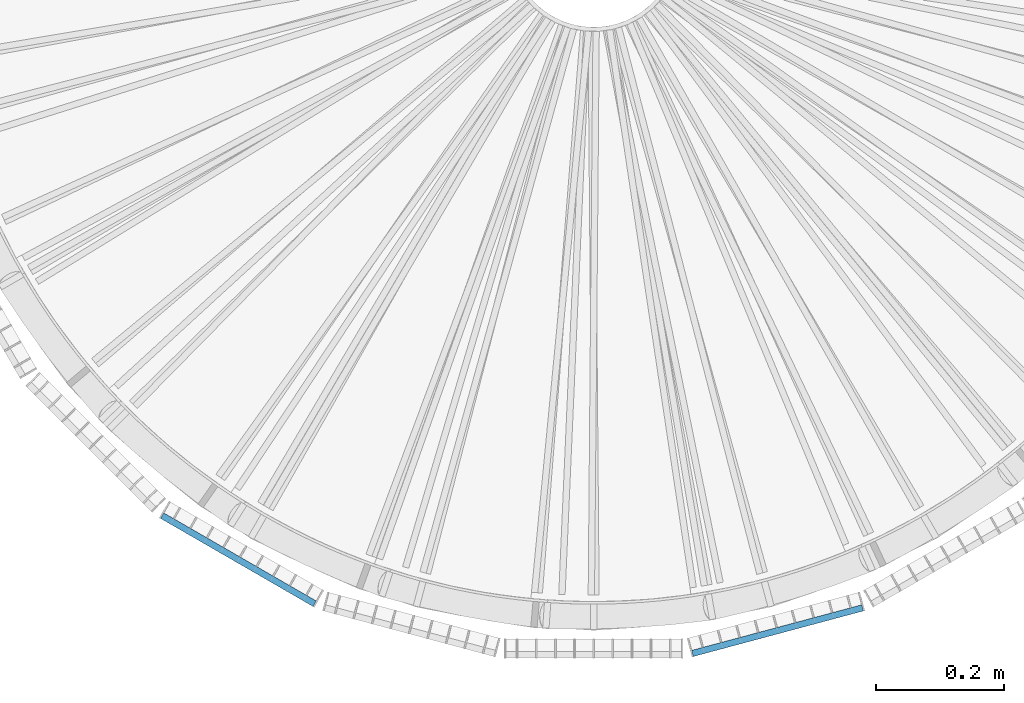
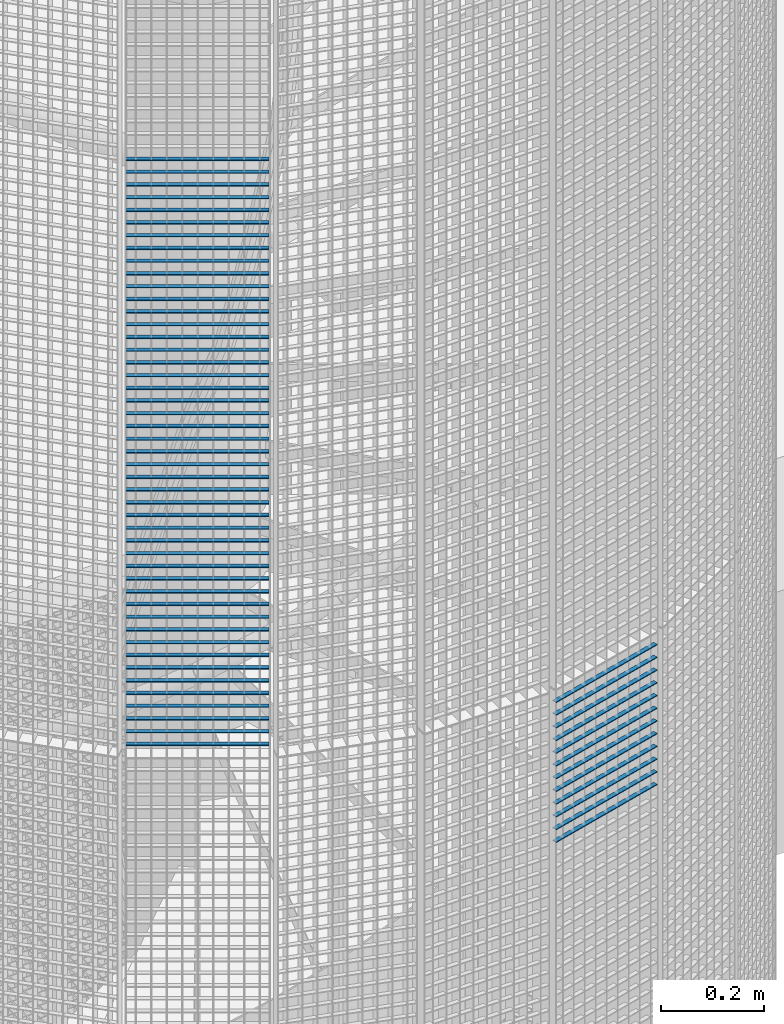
# One storey, part 154 of 1183: 59 beams, 2 elements without a shape of their own.
"""IFC2X3 building model written with IfcOpenShell, lengths in millimetres."""

from ifc_helpers import new_model, si_unit, frame, origin_with_axes, origin_2d_with_axis, place, context, subcontext, project, spatial, rectangle, extrude, material, type_object, element, aggregate, save


model = new_model("IFC2X3")

# Units and contexts
model_context = context("Model", 3, precision=1e-05, world=origin_with_axes())
body_context = subcontext(model_context, "Body", "Model", "MODEL_VIEW")
ifc_project = project(units=[si_unit("LENGTHUNIT", "METRE", prefix="MILLI"), si_unit("AREAUNIT", "SQUARE_METRE"), si_unit("VOLUMEUNIT", "CUBIC_METRE"), si_unit("MASSUNIT", "GRAM", prefix="KILO"), si_unit("TIMEUNIT", "SECOND"), si_unit("PLANEANGLEUNIT", "RADIAN"), si_unit("SOLIDANGLEUNIT", "STERADIAN"), si_unit("THERMODYNAMICTEMPERATUREUNIT", "DEGREE_CELSIUS"), si_unit("LUMINOUSINTENSITYUNIT", "LUMEN")], contexts=[model_context])

# Site, building, storey
site_placement = place(None, origin_with_axes())
site = spatial("IfcSite", under=ifc_project, at=site_placement, Name="Undefined", CompositionType="ELEMENT")
building_placement = place(site_placement, origin_with_axes())
building = spatial("IfcBuilding", under=site, at=building_placement, Name="Undefined", CompositionType="ELEMENT")
storey_placement = place(building_placement, origin_with_axes())
storey = spatial("IfcBuildingStorey", under=building, at=storey_placement, Name="Undefined", CompositionType="ELEMENT", Elevation=0.0)

# Assembly, beams
assembly_1_placement = place(storey_placement, origin_with_axes())
assembly_1 = element("IfcElementAssembly", 1, at=assembly_1_placement, inside=storey, Name="BORDURE", AssemblyPlace="NOTDEFINED", PredefinedType="NOTDEFINED")
ifc_material = material(Name="STEEL/S235JR")
beam_type = type_object("IfcBeamType", Name="PL2*10", PredefinedType="NOTDEFINED")
beam_1_placement = place(assembly_1_placement, frame((-676.248044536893, -895.303964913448, 10410.0), z_axis=(-0.49999999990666, -0.866025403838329, 0.0), x_axis=(0.866025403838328, -0.49999999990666, 0.0)))
beam_1 = element("IfcBeam", 2, at=beam_1_placement, type_object=beam_type, material=ifc_material, Name="ENTRETOISE", context=body_context, shape_type="SweptSolid", body=[
    extrude(rectangle(XDim=2.0, YDim=10.0, at=origin_2d_with_axis()), frame((275.999999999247, 9.09494701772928e-13, 1.53210777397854e-14), z_axis=(-1.0, 0.0, 0.0), x_axis=(0.0, -1.0, 0.0)), (0.0, 0.0, 1.0), 276.0),
])
beam_2_placement = place(assembly_1_placement, frame((-676.248044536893, -895.303964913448, 10380.0), z_axis=(-0.49999999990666, -0.866025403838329, 0.0), x_axis=(0.866025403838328, -0.49999999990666, 0.0)))
beam_2 = element("IfcBeam", 3, at=beam_2_placement, type_object=beam_type, material=ifc_material, Name="ENTRETOISE", context=body_context, shape_type="SweptSolid", body=[
    extrude(rectangle(XDim=2.0, YDim=10.0, at=origin_2d_with_axis()), frame((275.999999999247, 9.09494701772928e-13, 1.53210777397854e-14), z_axis=(-1.0, 0.0, 0.0), x_axis=(0.0, -1.0, 0.0)), (0.0, 0.0, 1.0), 276.0),
])
beam_3_placement = place(assembly_1_placement, frame((-676.248044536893, -895.303964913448, 10350.0), z_axis=(-0.49999999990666, -0.866025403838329, 0.0), x_axis=(0.866025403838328, -0.49999999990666, 0.0)))
beam_3 = element("IfcBeam", 4, at=beam_3_placement, type_object=beam_type, material=ifc_material, Name="ENTRETOISE", context=body_context, shape_type="SweptSolid", body=[
    extrude(rectangle(XDim=2.0, YDim=10.0, at=origin_2d_with_axis()), frame((275.999999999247, 9.09494701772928e-13, 1.53210777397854e-14), z_axis=(-1.0, 0.0, 0.0), x_axis=(0.0, -1.0, 0.0)), (0.0, 0.0, 1.0), 276.0),
])
beam_4_placement = place(assembly_1_placement, frame((-676.248044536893, -895.303964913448, 10320.0), z_axis=(-0.49999999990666, -0.866025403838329, 0.0), x_axis=(0.866025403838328, -0.49999999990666, 0.0)))
beam_4 = element("IfcBeam", 5, at=beam_4_placement, type_object=beam_type, material=ifc_material, Name="ENTRETOISE", context=body_context, shape_type="SweptSolid", body=[
    extrude(rectangle(XDim=2.0, YDim=10.0, at=origin_2d_with_axis()), frame((275.999999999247, 9.09494701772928e-13, 1.53210777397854e-14), z_axis=(-1.0, 0.0, 0.0), x_axis=(0.0, -1.0, 0.0)), (0.0, 0.0, 1.0), 276.0),
])
beam_5_placement = place(assembly_1_placement, frame((-676.248044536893, -895.303964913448, 10290.0), z_axis=(-0.49999999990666, -0.866025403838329, 0.0), x_axis=(0.866025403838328, -0.49999999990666, 0.0)))
beam_5 = element("IfcBeam", 6, at=beam_5_placement, type_object=beam_type, material=ifc_material, Name="ENTRETOISE", context=body_context, shape_type="SweptSolid", body=[
    extrude(rectangle(XDim=2.0, YDim=10.0, at=origin_2d_with_axis()), frame((275.999999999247, 9.09494701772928e-13, 1.53210777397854e-14), z_axis=(-1.0, 0.0, 0.0), x_axis=(0.0, -1.0, 0.0)), (0.0, 0.0, 1.0), 276.0),
])
beam_6_placement = place(assembly_1_placement, frame((-676.248044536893, -895.303964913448, 10260.0), z_axis=(-0.49999999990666, -0.866025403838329, 0.0), x_axis=(0.866025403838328, -0.49999999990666, 0.0)))
beam_6 = element("IfcBeam", 7, at=beam_6_placement, type_object=beam_type, material=ifc_material, Name="ENTRETOISE", context=body_context, shape_type="SweptSolid", body=[
    extrude(rectangle(XDim=2.0, YDim=10.0, at=origin_2d_with_axis()), frame((275.999999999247, 9.09494701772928e-13, 1.53210777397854e-14), z_axis=(-1.0, 0.0, 0.0), x_axis=(0.0, -1.0, 0.0)), (0.0, 0.0, 1.0), 276.0),
])
beam_7_placement = place(assembly_1_placement, frame((-676.248044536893, -895.303964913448, 10230.0), z_axis=(-0.49999999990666, -0.866025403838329, 0.0), x_axis=(0.866025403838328, -0.49999999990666, 0.0)))
beam_7 = element("IfcBeam", 8, at=beam_7_placement, type_object=beam_type, material=ifc_material, Name="ENTRETOISE", context=body_context, shape_type="SweptSolid", body=[
    extrude(rectangle(XDim=2.0, YDim=10.0, at=origin_2d_with_axis()), frame((275.999999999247, 9.09494701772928e-13, 1.53210777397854e-14), z_axis=(-1.0, 0.0, 0.0), x_axis=(0.0, -1.0, 0.0)), (0.0, 0.0, 1.0), 276.0),
])
beam_8_placement = place(assembly_1_placement, frame((-676.248044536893, -895.303964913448, 10200.0), z_axis=(-0.49999999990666, -0.866025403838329, 0.0), x_axis=(0.866025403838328, -0.49999999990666, 0.0)))
beam_8 = element("IfcBeam", 9, at=beam_8_placement, type_object=beam_type, material=ifc_material, Name="ENTRETOISE", context=body_context, shape_type="SweptSolid", body=[
    extrude(rectangle(XDim=2.0, YDim=10.0, at=origin_2d_with_axis()), frame((275.999999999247, 9.09494701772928e-13, 1.53210777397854e-14), z_axis=(-1.0, 0.0, 0.0), x_axis=(0.0, -1.0, 0.0)), (0.0, 0.0, 1.0), 276.0),
])
beam_9_placement = place(assembly_1_placement, frame((-676.248044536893, -895.303964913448, 10170.0), z_axis=(-0.49999999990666, -0.866025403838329, 0.0), x_axis=(0.866025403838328, -0.49999999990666, 0.0)))
beam_9 = element("IfcBeam", 10, at=beam_9_placement, type_object=beam_type, material=ifc_material, Name="ENTRETOISE", context=body_context, shape_type="SweptSolid", body=[
    extrude(rectangle(XDim=2.0, YDim=10.0, at=origin_2d_with_axis()), frame((275.999999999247, 9.09494701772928e-13, 1.53210777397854e-14), z_axis=(-1.0, 0.0, 0.0), x_axis=(0.0, -1.0, 0.0)), (0.0, 0.0, 1.0), 276.0),
])
beam_10_placement = place(assembly_1_placement, frame((-676.248044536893, -895.303964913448, 10140.0), z_axis=(-0.49999999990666, -0.866025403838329, 0.0), x_axis=(0.866025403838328, -0.49999999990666, 0.0)))
beam_10 = element("IfcBeam", 11, at=beam_10_placement, type_object=beam_type, material=ifc_material, Name="ENTRETOISE", context=body_context, shape_type="SweptSolid", body=[
    extrude(rectangle(XDim=2.0, YDim=10.0, at=origin_2d_with_axis()), frame((275.999999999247, 9.09494701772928e-13, 1.53210777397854e-14), z_axis=(-1.0, 0.0, 0.0), x_axis=(0.0, -1.0, 0.0)), (0.0, 0.0, 1.0), 276.0),
])
beam_11_placement = place(assembly_1_placement, frame((-676.248044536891, -895.303964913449, 9720.0), z_axis=(-0.49999999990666, -0.866025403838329, 0.0), x_axis=(0.866025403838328, -0.49999999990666, 0.0)))
beam_11 = element("IfcBeam", 12, at=beam_11_placement, type_object=beam_type, material=ifc_material, Name="ENTRETOISE", context=body_context, shape_type="SweptSolid", body=[
    extrude(rectangle(XDim=2.0, YDim=10.0, at=origin_2d_with_axis()), frame((275.999999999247, 9.09494701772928e-13, 1.53210777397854e-14), z_axis=(-1.0, 0.0, 0.0), x_axis=(0.0, -1.0, 0.0)), (0.0, 0.0, 1.0), 276.0),
])
beam_12_placement = place(assembly_1_placement, frame((-676.248044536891, -895.303964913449, 9690.0), z_axis=(-0.49999999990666, -0.866025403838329, 0.0), x_axis=(0.866025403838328, -0.49999999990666, 0.0)))
beam_12 = element("IfcBeam", 13, at=beam_12_placement, type_object=beam_type, material=ifc_material, Name="ENTRETOISE", context=body_context, shape_type="SweptSolid", body=[
    extrude(rectangle(XDim=2.0, YDim=10.0, at=origin_2d_with_axis()), frame((275.999999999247, 9.09494701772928e-13, 1.53210777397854e-14), z_axis=(-1.0, 0.0, 0.0), x_axis=(0.0, -1.0, 0.0)), (0.0, 0.0, 1.0), 276.0),
])
beam_13_placement = place(assembly_1_placement, frame((-676.248044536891, -895.303964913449, 9750.0), z_axis=(-0.49999999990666, -0.866025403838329, 0.0), x_axis=(0.866025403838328, -0.49999999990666, 0.0)))
beam_13 = element("IfcBeam", 14, at=beam_13_placement, type_object=beam_type, material=ifc_material, Name="ENTRETOISE", context=body_context, shape_type="SweptSolid", body=[
    extrude(rectangle(XDim=2.0, YDim=10.0, at=origin_2d_with_axis()), frame((275.999999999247, 9.09494701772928e-13, 1.53210777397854e-14), z_axis=(-1.0, 0.0, 0.0), x_axis=(0.0, -1.0, 0.0)), (0.0, 0.0, 1.0), 276.0),
])
beam_14_placement = place(assembly_1_placement, frame((-676.248044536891, -895.303964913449, 9660.0), z_axis=(-0.49999999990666, -0.866025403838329, 0.0), x_axis=(0.866025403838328, -0.49999999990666, 0.0)))
beam_14 = element("IfcBeam", 15, at=beam_14_placement, type_object=beam_type, material=ifc_material, Name="ENTRETOISE", context=body_context, shape_type="SweptSolid", body=[
    extrude(rectangle(XDim=2.0, YDim=10.0, at=origin_2d_with_axis()), frame((275.999999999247, 9.09494701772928e-13, 1.53210777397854e-14), z_axis=(-1.0, 0.0, 0.0), x_axis=(0.0, -1.0, 0.0)), (0.0, 0.0, 1.0), 276.0),
])
beam_15_placement = place(assembly_1_placement, frame((-676.248044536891, -895.303964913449, 9630.0), z_axis=(-0.49999999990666, -0.866025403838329, 0.0), x_axis=(0.866025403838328, -0.49999999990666, 0.0)))
beam_15 = element("IfcBeam", 16, at=beam_15_placement, type_object=beam_type, material=ifc_material, Name="ENTRETOISE", context=body_context, shape_type="SweptSolid", body=[
    extrude(rectangle(XDim=2.0, YDim=10.0, at=origin_2d_with_axis()), frame((275.999999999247, 9.09494701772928e-13, 1.53210777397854e-14), z_axis=(-1.0, 0.0, 0.0), x_axis=(0.0, -1.0, 0.0)), (0.0, 0.0, 1.0), 276.0),
])
beam_16_placement = place(assembly_1_placement, frame((-676.248044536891, -895.303964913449, 9780.0), z_axis=(-0.49999999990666, -0.866025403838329, 0.0), x_axis=(0.866025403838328, -0.49999999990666, 0.0)))
beam_16 = element("IfcBeam", 17, at=beam_16_placement, type_object=beam_type, material=ifc_material, Name="ENTRETOISE", context=body_context, shape_type="SweptSolid", body=[
    extrude(rectangle(XDim=2.0, YDim=10.0, at=origin_2d_with_axis()), frame((275.999999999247, 9.09494701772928e-13, 1.53210777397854e-14), z_axis=(-1.0, 0.0, 0.0), x_axis=(0.0, -1.0, 0.0)), (0.0, 0.0, 1.0), 276.0),
])
beam_17_placement = place(assembly_1_placement, frame((-676.248044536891, -895.30396491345, 9600.0), z_axis=(-0.49999999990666, -0.866025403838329, 0.0), x_axis=(0.866025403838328, -0.49999999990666, 0.0)))
beam_17 = element("IfcBeam", 18, at=beam_17_placement, type_object=beam_type, material=ifc_material, Name="ENTRETOISE", context=body_context, shape_type="SweptSolid", body=[
    extrude(rectangle(XDim=2.0, YDim=10.0, at=origin_2d_with_axis()), frame((275.999999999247, 9.09494701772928e-13, 1.53210777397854e-14), z_axis=(-1.0, 0.0, 0.0), x_axis=(0.0, -1.0, 0.0)), (0.0, 0.0, 1.0), 276.0),
])
beam_18_placement = place(assembly_1_placement, frame((-676.248044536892, -895.303964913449, 9810.0), z_axis=(-0.49999999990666, -0.866025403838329, 0.0), x_axis=(0.866025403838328, -0.49999999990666, 0.0)))
beam_18 = element("IfcBeam", 19, at=beam_18_placement, type_object=beam_type, material=ifc_material, Name="ENTRETOISE", context=body_context, shape_type="SweptSolid", body=[
    extrude(rectangle(XDim=2.0, YDim=10.0, at=origin_2d_with_axis()), frame((275.999999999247, 9.09494701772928e-13, 1.53210777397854e-14), z_axis=(-1.0, 0.0, 0.0), x_axis=(0.0, -1.0, 0.0)), (0.0, 0.0, 1.0), 276.0),
])
beam_19_placement = place(assembly_1_placement, frame((-676.248044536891, -895.30396491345, 9570.0), z_axis=(-0.49999999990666, -0.866025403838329, 0.0), x_axis=(0.866025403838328, -0.49999999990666, 0.0)))
beam_19 = element("IfcBeam", 20, at=beam_19_placement, type_object=beam_type, material=ifc_material, Name="ENTRETOISE", context=body_context, shape_type="SweptSolid", body=[
    extrude(rectangle(XDim=2.0, YDim=10.0, at=origin_2d_with_axis()), frame((275.999999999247, 9.09494701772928e-13, 1.53210777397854e-14), z_axis=(-1.0, 0.0, 0.0), x_axis=(0.0, -1.0, 0.0)), (0.0, 0.0, 1.0), 276.0),
])
beam_20_placement = place(assembly_1_placement, frame((-676.248044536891, -895.30396491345, 9540.0), z_axis=(-0.49999999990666, -0.866025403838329, 0.0), x_axis=(0.866025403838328, -0.49999999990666, 0.0)))
beam_20 = element("IfcBeam", 21, at=beam_20_placement, type_object=beam_type, material=ifc_material, Name="ENTRETOISE", context=body_context, shape_type="SweptSolid", body=[
    extrude(rectangle(XDim=2.0, YDim=10.0, at=origin_2d_with_axis()), frame((275.999999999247, 9.09494701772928e-13, 1.53210777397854e-14), z_axis=(-1.0, 0.0, 0.0), x_axis=(0.0, -1.0, 0.0)), (0.0, 0.0, 1.0), 276.0),
])
beam_21_placement = place(assembly_1_placement, frame((-676.248044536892, -895.303964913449, 9840.0), z_axis=(-0.49999999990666, -0.866025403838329, 0.0), x_axis=(0.866025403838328, -0.49999999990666, 0.0)))
beam_21 = element("IfcBeam", 22, at=beam_21_placement, type_object=beam_type, material=ifc_material, Name="ENTRETOISE", context=body_context, shape_type="SweptSolid", body=[
    extrude(rectangle(XDim=2.0, YDim=10.0, at=origin_2d_with_axis()), frame((275.999999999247, 9.09494701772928e-13, 1.53210777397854e-14), z_axis=(-1.0, 0.0, 0.0), x_axis=(0.0, -1.0, 0.0)), (0.0, 0.0, 1.0), 276.0),
])
beam_22_placement = place(assembly_1_placement, frame((-676.248044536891, -895.303964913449, 9510.0), z_axis=(-0.49999999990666, -0.866025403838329, 0.0), x_axis=(0.866025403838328, -0.49999999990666, 0.0)))
beam_22 = element("IfcBeam", 23, at=beam_22_placement, type_object=beam_type, material=ifc_material, Name="ENTRETOISE", context=body_context, shape_type="SweptSolid", body=[
    extrude(rectangle(XDim=2.0, YDim=10.0, at=origin_2d_with_axis()), frame((275.999999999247, 9.09494701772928e-13, 1.53210777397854e-14), z_axis=(-1.0, 0.0, 0.0), x_axis=(0.0, -1.0, 0.0)), (0.0, 0.0, 1.0), 276.0),
])
beam_23_placement = place(assembly_1_placement, frame((-676.248044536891, -895.303964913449, 9480.0), z_axis=(-0.49999999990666, -0.866025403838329, 0.0), x_axis=(0.866025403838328, -0.49999999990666, 0.0)))
beam_23 = element("IfcBeam", 24, at=beam_23_placement, type_object=beam_type, material=ifc_material, Name="ENTRETOISE", context=body_context, shape_type="SweptSolid", body=[
    extrude(rectangle(XDim=2.0, YDim=10.0, at=origin_2d_with_axis()), frame((275.999999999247, 9.09494701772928e-13, 1.53210777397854e-14), z_axis=(-1.0, 0.0, 0.0), x_axis=(0.0, -1.0, 0.0)), (0.0, 0.0, 1.0), 276.0),
])
beam_24_placement = place(assembly_1_placement, frame((-676.248044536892, -895.303964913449, 9870.0), z_axis=(-0.49999999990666, -0.866025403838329, 0.0), x_axis=(0.866025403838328, -0.49999999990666, 0.0)))
beam_24 = element("IfcBeam", 25, at=beam_24_placement, type_object=beam_type, material=ifc_material, Name="ENTRETOISE", context=body_context, shape_type="SweptSolid", body=[
    extrude(rectangle(XDim=2.0, YDim=10.0, at=origin_2d_with_axis()), frame((275.999999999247, 9.09494701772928e-13, 1.53210777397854e-14), z_axis=(-1.0, 0.0, 0.0), x_axis=(0.0, -1.0, 0.0)), (0.0, 0.0, 1.0), 276.0),
])
beam_25_placement = place(assembly_1_placement, frame((-676.248044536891, -895.30396491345, 9450.0), z_axis=(-0.49999999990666, -0.866025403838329, 0.0), x_axis=(0.866025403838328, -0.49999999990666, 0.0)))
beam_25 = element("IfcBeam", 26, at=beam_25_placement, type_object=beam_type, material=ifc_material, Name="ENTRETOISE", context=body_context, shape_type="SweptSolid", body=[
    extrude(rectangle(XDim=2.0, YDim=10.0, at=origin_2d_with_axis()), frame((275.999999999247, 9.09494701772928e-13, 1.53210777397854e-14), z_axis=(-1.0, 0.0, 0.0), x_axis=(0.0, -1.0, 0.0)), (0.0, 0.0, 1.0), 276.0),
])
beam_26_placement = place(assembly_1_placement, frame((-676.24804453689, -895.30396491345, 9420.0), z_axis=(-0.49999999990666, -0.866025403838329, 0.0), x_axis=(0.866025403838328, -0.49999999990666, 0.0)))
beam_26 = element("IfcBeam", 27, at=beam_26_placement, type_object=beam_type, material=ifc_material, Name="ENTRETOISE", context=body_context, shape_type="SweptSolid", body=[
    extrude(rectangle(XDim=2.0, YDim=10.0, at=origin_2d_with_axis()), frame((275.999999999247, 9.09494701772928e-13, 1.53210777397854e-14), z_axis=(-1.0, 0.0, 0.0), x_axis=(0.0, -1.0, 0.0)), (0.0, 0.0, 1.0), 276.0),
])
beam_27_placement = place(assembly_1_placement, frame((-676.248044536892, -895.303964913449, 9900.0), z_axis=(-0.49999999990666, -0.866025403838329, 0.0), x_axis=(0.866025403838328, -0.49999999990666, 0.0)))
beam_27 = element("IfcBeam", 28, at=beam_27_placement, type_object=beam_type, material=ifc_material, Name="ENTRETOISE", context=body_context, shape_type="SweptSolid", body=[
    extrude(rectangle(XDim=2.0, YDim=10.0, at=origin_2d_with_axis()), frame((275.999999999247, 9.09494701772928e-13, 1.53210777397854e-14), z_axis=(-1.0, 0.0, 0.0), x_axis=(0.0, -1.0, 0.0)), (0.0, 0.0, 1.0), 276.0),
])
beam_28_placement = place(assembly_1_placement, frame((-676.24804453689, -895.30396491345, 9390.0), z_axis=(-0.49999999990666, -0.866025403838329, 0.0), x_axis=(0.866025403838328, -0.49999999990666, 0.0)))
beam_28 = element("IfcBeam", 29, at=beam_28_placement, type_object=beam_type, material=ifc_material, Name="ENTRETOISE", context=body_context, shape_type="SweptSolid", body=[
    extrude(rectangle(XDim=2.0, YDim=10.0, at=origin_2d_with_axis()), frame((275.999999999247, 9.09494701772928e-13, 1.53210777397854e-14), z_axis=(-1.0, 0.0, 0.0), x_axis=(0.0, -1.0, 0.0)), (0.0, 0.0, 1.0), 276.0),
])
beam_29_placement = place(assembly_1_placement, frame((-676.248044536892, -895.303964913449, 9930.0), z_axis=(-0.49999999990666, -0.866025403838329, 0.0), x_axis=(0.866025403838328, -0.49999999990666, 0.0)))
beam_29 = element("IfcBeam", 30, at=beam_29_placement, type_object=beam_type, material=ifc_material, Name="ENTRETOISE", context=body_context, shape_type="SweptSolid", body=[
    extrude(rectangle(XDim=2.0, YDim=10.0, at=origin_2d_with_axis()), frame((275.999999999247, 9.09494701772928e-13, 1.53210777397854e-14), z_axis=(-1.0, 0.0, 0.0), x_axis=(0.0, -1.0, 0.0)), (0.0, 0.0, 1.0), 276.0),
])
beam_30_placement = place(assembly_1_placement, frame((-676.24804453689, -895.30396491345, 9360.0), z_axis=(-0.49999999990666, -0.866025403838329, 0.0), x_axis=(0.866025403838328, -0.49999999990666, 0.0)))
beam_30 = element("IfcBeam", 31, at=beam_30_placement, type_object=beam_type, material=ifc_material, Name="ENTRETOISE", context=body_context, shape_type="SweptSolid", body=[
    extrude(rectangle(XDim=2.0, YDim=10.0, at=origin_2d_with_axis()), frame((275.999999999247, 9.09494701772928e-13, 1.53210777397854e-14), z_axis=(-1.0, 0.0, 0.0), x_axis=(0.0, -1.0, 0.0)), (0.0, 0.0, 1.0), 276.0),
])
beam_31_placement = place(assembly_1_placement, frame((-676.24804453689, -895.30396491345, 9330.0), z_axis=(-0.49999999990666, -0.866025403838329, 0.0), x_axis=(0.866025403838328, -0.49999999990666, 0.0)))
beam_31 = element("IfcBeam", 32, at=beam_31_placement, type_object=beam_type, material=ifc_material, Name="ENTRETOISE", context=body_context, shape_type="SweptSolid", body=[
    extrude(rectangle(XDim=2.0, YDim=10.0, at=origin_2d_with_axis()), frame((275.999999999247, 9.09494701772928e-13, 1.53210777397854e-14), z_axis=(-1.0, 0.0, 0.0), x_axis=(0.0, -1.0, 0.0)), (0.0, 0.0, 1.0), 276.0),
])
beam_32_placement = place(assembly_1_placement, frame((-676.248044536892, -895.303964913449, 9960.0), z_axis=(-0.49999999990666, -0.866025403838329, 0.0), x_axis=(0.866025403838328, -0.49999999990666, 0.0)))
beam_32 = element("IfcBeam", 33, at=beam_32_placement, type_object=beam_type, material=ifc_material, Name="ENTRETOISE", context=body_context, shape_type="SweptSolid", body=[
    extrude(rectangle(XDim=2.0, YDim=10.0, at=origin_2d_with_axis()), frame((275.999999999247, 9.09494701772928e-13, 1.53210777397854e-14), z_axis=(-1.0, 0.0, 0.0), x_axis=(0.0, -1.0, 0.0)), (0.0, 0.0, 1.0), 276.0),
])
beam_33_placement = place(assembly_1_placement, frame((-676.24804453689, -895.30396491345, 9300.0), z_axis=(-0.49999999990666, -0.866025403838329, 0.0), x_axis=(0.866025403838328, -0.49999999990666, 0.0)))
beam_33 = element("IfcBeam", 34, at=beam_33_placement, type_object=beam_type, material=ifc_material, Name="ENTRETOISE", context=body_context, shape_type="SweptSolid", body=[
    extrude(rectangle(XDim=2.0, YDim=10.0, at=origin_2d_with_axis()), frame((275.999999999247, 9.09494701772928e-13, 1.53210777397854e-14), z_axis=(-1.0, 0.0, 0.0), x_axis=(0.0, -1.0, 0.0)), (0.0, 0.0, 1.0), 276.0),
])
beam_34_placement = place(assembly_1_placement, frame((-676.24804453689, -895.30396491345, 9270.0), z_axis=(-0.49999999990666, -0.866025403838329, 0.0), x_axis=(0.866025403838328, -0.49999999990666, 0.0)))
beam_34 = element("IfcBeam", 35, at=beam_34_placement, type_object=beam_type, material=ifc_material, Name="ENTRETOISE", context=body_context, shape_type="SweptSolid", body=[
    extrude(rectangle(XDim=2.0, YDim=10.0, at=origin_2d_with_axis()), frame((275.999999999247, 9.09494701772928e-13, 1.53210777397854e-14), z_axis=(-1.0, 0.0, 0.0), x_axis=(0.0, -1.0, 0.0)), (0.0, 0.0, 1.0), 276.0),
])
beam_35_placement = place(assembly_1_placement, frame((-676.248044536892, -895.303964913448, 9990.0), z_axis=(-0.49999999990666, -0.866025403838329, 0.0), x_axis=(0.866025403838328, -0.49999999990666, 0.0)))
beam_35 = element("IfcBeam", 36, at=beam_35_placement, type_object=beam_type, material=ifc_material, Name="ENTRETOISE", context=body_context, shape_type="SweptSolid", body=[
    extrude(rectangle(XDim=2.0, YDim=10.0, at=origin_2d_with_axis()), frame((275.999999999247, 9.09494701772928e-13, 1.53210777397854e-14), z_axis=(-1.0, 0.0, 0.0), x_axis=(0.0, -1.0, 0.0)), (0.0, 0.0, 1.0), 276.0),
])
beam_36_placement = place(assembly_1_placement, frame((-676.24804453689, -895.30396491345, 9240.0), z_axis=(-0.49999999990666, -0.866025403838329, 0.0), x_axis=(0.866025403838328, -0.49999999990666, 0.0)))
beam_36 = element("IfcBeam", 37, at=beam_36_placement, type_object=beam_type, material=ifc_material, Name="ENTRETOISE", context=body_context, shape_type="SweptSolid", body=[
    extrude(rectangle(XDim=2.0, YDim=10.0, at=origin_2d_with_axis()), frame((275.999999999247, 9.09494701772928e-13, 1.53210777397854e-14), z_axis=(-1.0, 0.0, 0.0), x_axis=(0.0, -1.0, 0.0)), (0.0, 0.0, 1.0), 276.0),
])
beam_37_placement = place(assembly_1_placement, frame((-676.248044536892, -895.303964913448, 10020.0), z_axis=(-0.49999999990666, -0.866025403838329, 0.0), x_axis=(0.866025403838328, -0.49999999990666, 0.0)))
beam_37 = element("IfcBeam", 38, at=beam_37_placement, type_object=beam_type, material=ifc_material, Name="ENTRETOISE", context=body_context, shape_type="SweptSolid", body=[
    extrude(rectangle(XDim=2.0, YDim=10.0, at=origin_2d_with_axis()), frame((275.999999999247, 9.09494701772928e-13, 1.53210777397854e-14), z_axis=(-1.0, 0.0, 0.0), x_axis=(0.0, -1.0, 0.0)), (0.0, 0.0, 1.0), 276.0),
])
beam_38_placement = place(assembly_1_placement, frame((-676.24804453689, -895.30396491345, 9210.0), z_axis=(-0.49999999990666, -0.866025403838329, 0.0), x_axis=(0.866025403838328, -0.49999999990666, 0.0)))
beam_38 = element("IfcBeam", 39, at=beam_38_placement, type_object=beam_type, material=ifc_material, Name="ENTRETOISE", context=body_context, shape_type="SweptSolid", body=[
    extrude(rectangle(XDim=2.0, YDim=10.0, at=origin_2d_with_axis()), frame((275.999999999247, 9.09494701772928e-13, 1.53210777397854e-14), z_axis=(-1.0, 0.0, 0.0), x_axis=(0.0, -1.0, 0.0)), (0.0, 0.0, 1.0), 276.0),
])
beam_39_placement = place(assembly_1_placement, frame((-676.24804453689, -895.30396491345, 9180.0), z_axis=(-0.49999999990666, -0.866025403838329, 0.0), x_axis=(0.866025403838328, -0.49999999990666, 0.0)))
beam_39 = element("IfcBeam", 40, at=beam_39_placement, type_object=beam_type, material=ifc_material, Name="ENTRETOISE", context=body_context, shape_type="SweptSolid", body=[
    extrude(rectangle(XDim=2.0, YDim=10.0, at=origin_2d_with_axis()), frame((275.999999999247, 9.09494701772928e-13, 1.53210777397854e-14), z_axis=(-1.0, 0.0, 0.0), x_axis=(0.0, -1.0, 0.0)), (0.0, 0.0, 1.0), 276.0),
])
beam_40_placement = place(assembly_1_placement, frame((-676.248044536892, -895.303964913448, 10050.0), z_axis=(-0.49999999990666, -0.866025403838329, 0.0), x_axis=(0.866025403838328, -0.49999999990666, 0.0)))
beam_40 = element("IfcBeam", 41, at=beam_40_placement, type_object=beam_type, material=ifc_material, Name="ENTRETOISE", context=body_context, shape_type="SweptSolid", body=[
    extrude(rectangle(XDim=2.0, YDim=10.0, at=origin_2d_with_axis()), frame((275.999999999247, 9.09494701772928e-13, 1.53210777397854e-14), z_axis=(-1.0, 0.0, 0.0), x_axis=(0.0, -1.0, 0.0)), (0.0, 0.0, 1.0), 276.0),
])
beam_41_placement = place(assembly_1_placement, frame((-676.24804453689, -895.30396491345, 9150.0), z_axis=(-0.49999999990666, -0.866025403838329, 0.0), x_axis=(0.866025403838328, -0.49999999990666, 0.0)))
beam_41 = element("IfcBeam", 42, at=beam_41_placement, type_object=beam_type, material=ifc_material, Name="ENTRETOISE", context=body_context, shape_type="SweptSolid", body=[
    extrude(rectangle(XDim=2.0, YDim=10.0, at=origin_2d_with_axis()), frame((275.999999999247, 9.09494701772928e-13, 1.53210777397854e-14), z_axis=(-1.0, 0.0, 0.0), x_axis=(0.0, -1.0, 0.0)), (0.0, 0.0, 1.0), 276.0),
])
beam_42_placement = place(assembly_1_placement, frame((-676.248044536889, -895.30396491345, 9120.0), z_axis=(-0.49999999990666, -0.866025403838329, 0.0), x_axis=(0.866025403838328, -0.49999999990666, 0.0)))
beam_42 = element("IfcBeam", 43, at=beam_42_placement, type_object=beam_type, material=ifc_material, Name="ENTRETOISE", context=body_context, shape_type="SweptSolid", body=[
    extrude(rectangle(XDim=2.0, YDim=10.0, at=origin_2d_with_axis()), frame((275.999999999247, 9.09494701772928e-13, 1.53210777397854e-14), z_axis=(-1.0, 0.0, 0.0), x_axis=(0.0, -1.0, 0.0)), (0.0, 0.0, 1.0), 276.0),
])
beam_43_placement = place(assembly_1_placement, frame((-676.248044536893, -895.303964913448, 10080.0), z_axis=(-0.49999999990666, -0.866025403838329, 0.0), x_axis=(0.866025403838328, -0.49999999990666, 0.0)))
beam_43 = element("IfcBeam", 44, at=beam_43_placement, type_object=beam_type, material=ifc_material, Name="ENTRETOISE", context=body_context, shape_type="SweptSolid", body=[
    extrude(rectangle(XDim=2.0, YDim=10.0, at=origin_2d_with_axis()), frame((275.999999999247, 9.09494701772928e-13, 1.53210777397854e-14), z_axis=(-1.0, 0.0, 0.0), x_axis=(0.0, -1.0, 0.0)), (0.0, 0.0, 1.0), 276.0),
])
beam_44_placement = place(assembly_1_placement, frame((-676.248044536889, -895.30396491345, 9090.0), z_axis=(-0.49999999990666, -0.866025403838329, 0.0), x_axis=(0.866025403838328, -0.49999999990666, 0.0)))
beam_44 = element("IfcBeam", 45, at=beam_44_placement, type_object=beam_type, material=ifc_material, Name="ENTRETOISE", context=body_context, shape_type="SweptSolid", body=[
    extrude(rectangle(XDim=2.0, YDim=10.0, at=origin_2d_with_axis()), frame((275.999999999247, 9.09494701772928e-13, 1.53210777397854e-14), z_axis=(-1.0, 0.0, 0.0), x_axis=(0.0, -1.0, 0.0)), (0.0, 0.0, 1.0), 276.0),
])
beam_45_placement = place(assembly_1_placement, frame((-676.248044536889, -895.30396491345, 9060.0), z_axis=(-0.49999999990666, -0.866025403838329, 0.0), x_axis=(0.866025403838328, -0.49999999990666, 0.0)))
beam_45 = element("IfcBeam", 46, at=beam_45_placement, type_object=beam_type, material=ifc_material, Name="ENTRETOISE", context=body_context, shape_type="SweptSolid", body=[
    extrude(rectangle(XDim=2.0, YDim=10.0, at=origin_2d_with_axis()), frame((275.999999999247, 9.09494701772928e-13, 1.53210777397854e-14), z_axis=(-1.0, 0.0, 0.0), x_axis=(0.0, -1.0, 0.0)), (0.0, 0.0, 1.0), 276.0),
])
beam_46_placement = place(assembly_1_placement, frame((-676.248044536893, -895.303964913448, 10110.0), z_axis=(-0.49999999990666, -0.866025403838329, 0.0), x_axis=(0.866025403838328, -0.49999999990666, 0.0)))
beam_46 = element("IfcBeam", 47, at=beam_46_placement, type_object=beam_type, material=ifc_material, Name="ENTRETOISE", context=body_context, shape_type="SweptSolid", body=[
    extrude(rectangle(XDim=2.0, YDim=10.0, at=origin_2d_with_axis()), frame((275.999999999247, 9.09494701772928e-13, 1.53210777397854e-14), z_axis=(-1.0, 0.0, 0.0), x_axis=(0.0, -1.0, 0.0)), (0.0, 0.0, 1.0), 276.0),
])
beam_47_placement = place(assembly_1_placement, frame((-676.248044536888, -895.30396491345, 9030.0), z_axis=(-0.49999999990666, -0.866025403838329, 0.0), x_axis=(0.866025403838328, -0.49999999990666, 0.0)))
beam_47 = element("IfcBeam", 48, at=beam_47_placement, type_object=beam_type, material=ifc_material, Name="ENTRETOISE", context=body_context, shape_type="SweptSolid", body=[
    extrude(rectangle(XDim=2.0, YDim=10.0, at=origin_2d_with_axis()), frame((275.999999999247, 9.09494701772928e-13, 1.53210777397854e-14), z_axis=(-1.0, 0.0, 0.0), x_axis=(0.0, -1.0, 0.0)), (0.0, 0.0, 1.0), 276.0),
])
aggregate(assembly_1, [beam_1, beam_2, beam_3, beam_4, beam_5, beam_6, beam_7, beam_8, beam_9, beam_10, beam_11, beam_12, beam_13, beam_14, beam_15, beam_16, beam_17, beam_18, beam_19, beam_20, beam_21, beam_22, beam_23, beam_24, beam_25, beam_26, beam_27, beam_28, beam_29, beam_30, beam_31, beam_32, beam_33, beam_34, beam_35, beam_36, beam_37, beam_38, beam_39, beam_40, beam_41, beam_42, beam_43, beam_44, beam_45, beam_46, beam_47])

assembly_2_placement = place(storey_placement, origin_with_axes())
assembly_2 = element("IfcElementAssembly", 49, at=assembly_2_placement, inside=storey, Name="BORDURE", AssemblyPlace="NOTDEFINED", PredefinedType="NOTDEFINED")
beam_48_placement = place(assembly_2_placement, frame((154.895926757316, -1111.25508286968, 8970.0), z_axis=(0.258819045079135, -0.965925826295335, 0.0), x_axis=(0.965925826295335, 0.258819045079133, 0.0)))
beam_48 = element("IfcBeam", 50, at=beam_48_placement, type_object=beam_type, material=ifc_material, Name="ENTRETOISE", context=body_context, shape_type="SweptSolid", body=[
    extrude(rectangle(XDim=2.0, YDim=10.0, at=origin_2d_with_axis()), frame((275.999999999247, 9.09494701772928e-13, 1.53210777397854e-14), z_axis=(-1.0, 0.0, 0.0), x_axis=(0.0, -1.0, 0.0)), (0.0, 0.0, 1.0), 276.0),
])
beam_49_placement = place(assembly_2_placement, frame((154.895926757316, -1111.25508286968, 8940.0), z_axis=(0.258819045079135, -0.965925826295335, 0.0), x_axis=(0.965925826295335, 0.258819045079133, 0.0)))
beam_49 = element("IfcBeam", 51, at=beam_49_placement, type_object=beam_type, material=ifc_material, Name="ENTRETOISE", context=body_context, shape_type="SweptSolid", body=[
    extrude(rectangle(XDim=2.0, YDim=10.0, at=origin_2d_with_axis()), frame((275.999999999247, 9.09494701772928e-13, 1.53210777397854e-14), z_axis=(-1.0, 0.0, 0.0), x_axis=(0.0, -1.0, 0.0)), (0.0, 0.0, 1.0), 276.0),
])
beam_50_placement = place(assembly_2_placement, frame((154.895926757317, -1111.25508286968, 8910.0), z_axis=(0.258819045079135, -0.965925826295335, 0.0), x_axis=(0.965925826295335, 0.258819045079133, 0.0)))
beam_50 = element("IfcBeam", 52, at=beam_50_placement, type_object=beam_type, material=ifc_material, Name="ENTRETOISE", context=body_context, shape_type="SweptSolid", body=[
    extrude(rectangle(XDim=2.0, YDim=10.0, at=origin_2d_with_axis()), frame((275.999999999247, 9.09494701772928e-13, 1.53210777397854e-14), z_axis=(-1.0, 0.0, 0.0), x_axis=(0.0, -1.0, 0.0)), (0.0, 0.0, 1.0), 276.0),
])
beam_51_placement = place(assembly_2_placement, frame((154.895926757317, -1111.25508286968, 8880.0), z_axis=(0.258819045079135, -0.965925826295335, 0.0), x_axis=(0.965925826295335, 0.258819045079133, 0.0)))
beam_51 = element("IfcBeam", 53, at=beam_51_placement, type_object=beam_type, material=ifc_material, Name="ENTRETOISE", context=body_context, shape_type="SweptSolid", body=[
    extrude(rectangle(XDim=2.0, YDim=10.0, at=origin_2d_with_axis()), frame((275.999999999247, 9.09494701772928e-13, 1.53210777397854e-14), z_axis=(-1.0, 0.0, 0.0), x_axis=(0.0, -1.0, 0.0)), (0.0, 0.0, 1.0), 276.0),
])
beam_52_placement = place(assembly_2_placement, frame((154.895926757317, -1111.25508286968, 8850.0), z_axis=(0.258819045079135, -0.965925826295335, 0.0), x_axis=(0.965925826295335, 0.258819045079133, 0.0)))
beam_52 = element("IfcBeam", 54, at=beam_52_placement, type_object=beam_type, material=ifc_material, Name="ENTRETOISE", context=body_context, shape_type="SweptSolid", body=[
    extrude(rectangle(XDim=2.0, YDim=10.0, at=origin_2d_with_axis()), frame((275.999999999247, 9.09494701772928e-13, 1.53210777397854e-14), z_axis=(-1.0, 0.0, 0.0), x_axis=(0.0, -1.0, 0.0)), (0.0, 0.0, 1.0), 276.0),
])
beam_53_placement = place(assembly_2_placement, frame((154.895926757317, -1111.25508286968, 8820.0), z_axis=(0.258819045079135, -0.965925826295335, 0.0), x_axis=(0.965925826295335, 0.258819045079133, 0.0)))
beam_53 = element("IfcBeam", 55, at=beam_53_placement, type_object=beam_type, material=ifc_material, Name="ENTRETOISE", context=body_context, shape_type="SweptSolid", body=[
    extrude(rectangle(XDim=2.0, YDim=10.0, at=origin_2d_with_axis()), frame((275.999999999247, 9.09494701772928e-13, 1.53210777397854e-14), z_axis=(-1.0, 0.0, 0.0), x_axis=(0.0, -1.0, 0.0)), (0.0, 0.0, 1.0), 276.0),
])
beam_54_placement = place(assembly_2_placement, frame((154.895926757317, -1111.25508286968, 8790.0), z_axis=(0.258819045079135, -0.965925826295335, 0.0), x_axis=(0.965925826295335, 0.258819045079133, 0.0)))
beam_54 = element("IfcBeam", 56, at=beam_54_placement, type_object=beam_type, material=ifc_material, Name="ENTRETOISE", context=body_context, shape_type="SweptSolid", body=[
    extrude(rectangle(XDim=2.0, YDim=10.0, at=origin_2d_with_axis()), frame((275.999999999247, 9.09494701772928e-13, 1.53210777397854e-14), z_axis=(-1.0, 0.0, 0.0), x_axis=(0.0, -1.0, 0.0)), (0.0, 0.0, 1.0), 276.0),
])
beam_55_placement = place(assembly_2_placement, frame((154.895926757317, -1111.25508286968, 8760.0), z_axis=(0.258819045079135, -0.965925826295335, 0.0), x_axis=(0.965925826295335, 0.258819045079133, 0.0)))
beam_55 = element("IfcBeam", 57, at=beam_55_placement, type_object=beam_type, material=ifc_material, Name="ENTRETOISE", context=body_context, shape_type="SweptSolid", body=[
    extrude(rectangle(XDim=2.0, YDim=10.0, at=origin_2d_with_axis()), frame((275.999999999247, 9.09494701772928e-13, 1.53210777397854e-14), z_axis=(-1.0, 0.0, 0.0), x_axis=(0.0, -1.0, 0.0)), (0.0, 0.0, 1.0), 276.0),
])
beam_56_placement = place(assembly_2_placement, frame((154.895926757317, -1111.25508286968, 8730.0), z_axis=(0.258819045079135, -0.965925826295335, 0.0), x_axis=(0.965925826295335, 0.258819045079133, 0.0)))
beam_56 = element("IfcBeam", 58, at=beam_56_placement, type_object=beam_type, material=ifc_material, Name="ENTRETOISE", context=body_context, shape_type="SweptSolid", body=[
    extrude(rectangle(XDim=2.0, YDim=10.0, at=origin_2d_with_axis()), frame((275.999999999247, 9.09494701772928e-13, 1.53210777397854e-14), z_axis=(-1.0, 0.0, 0.0), x_axis=(0.0, -1.0, 0.0)), (0.0, 0.0, 1.0), 276.0),
])
beam_57_placement = place(assembly_2_placement, frame((154.895926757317, -1111.25508286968, 8700.0), z_axis=(0.258819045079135, -0.965925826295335, 0.0), x_axis=(0.965925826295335, 0.258819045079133, 0.0)))
beam_57 = element("IfcBeam", 59, at=beam_57_placement, type_object=beam_type, material=ifc_material, Name="ENTRETOISE", context=body_context, shape_type="SweptSolid", body=[
    extrude(rectangle(XDim=2.0, YDim=10.0, at=origin_2d_with_axis()), frame((275.999999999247, 9.09494701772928e-13, 1.53210777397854e-14), z_axis=(-1.0, 0.0, 0.0), x_axis=(0.0, -1.0, 0.0)), (0.0, 0.0, 1.0), 276.0),
])
beam_58_placement = place(assembly_2_placement, frame((154.895926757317, -1111.25508286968, 8670.0), z_axis=(0.258819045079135, -0.965925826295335, 0.0), x_axis=(0.965925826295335, 0.258819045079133, 0.0)))
beam_58 = element("IfcBeam", 60, at=beam_58_placement, type_object=beam_type, material=ifc_material, Name="ENTRETOISE", context=body_context, shape_type="SweptSolid", body=[
    extrude(rectangle(XDim=2.0, YDim=10.0, at=origin_2d_with_axis()), frame((275.999999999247, 9.09494701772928e-13, 1.53210777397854e-14), z_axis=(-1.0, 0.0, 0.0), x_axis=(0.0, -1.0, 0.0)), (0.0, 0.0, 1.0), 276.0),
])
beam_59_placement = place(assembly_2_placement, frame((154.895926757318, -1111.25508286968, 8640.0), z_axis=(0.258819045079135, -0.965925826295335, 0.0), x_axis=(0.965925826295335, 0.258819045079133, 0.0)))
beam_59 = element("IfcBeam", 61, at=beam_59_placement, type_object=beam_type, material=ifc_material, Name="ENTRETOISE", context=body_context, shape_type="SweptSolid", body=[
    extrude(rectangle(XDim=2.0, YDim=10.0, at=origin_2d_with_axis()), frame((275.999999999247, 9.09494701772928e-13, 1.53210777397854e-14), z_axis=(-1.0, 0.0, 0.0), x_axis=(0.0, -1.0, 0.0)), (0.0, 0.0, 1.0), 276.0),
])
aggregate(assembly_2, [beam_48, beam_49, beam_50, beam_51, beam_52, beam_53, beam_54, beam_55, beam_56, beam_57, beam_58, beam_59])

save(model, "model.ifc")
